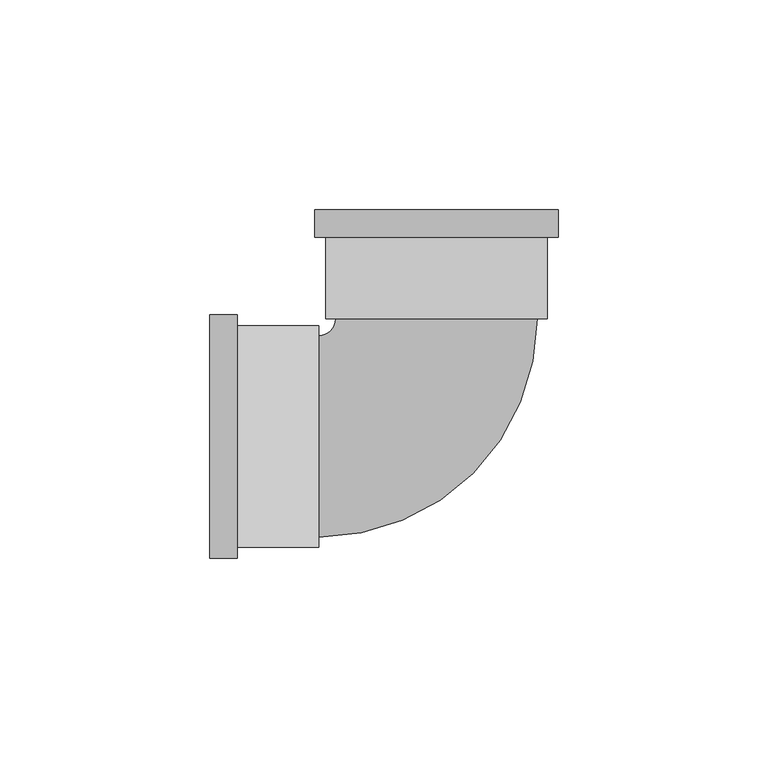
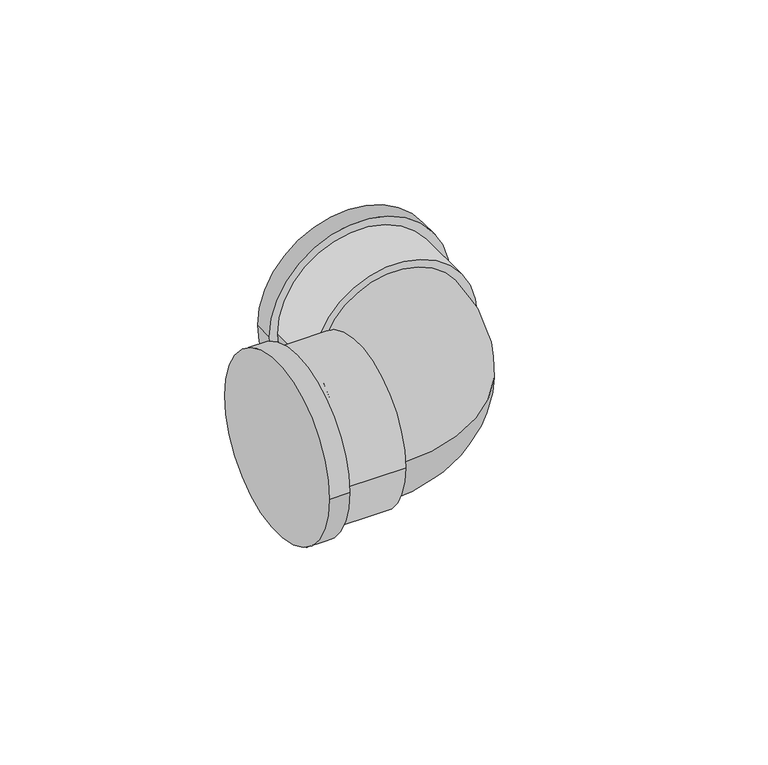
"""IFC4 building model written with IfcOpenShell, lengths in millimetres: pipe fitting geometry, Cotovelo - PVC - CW : Padrão."""

from ifc_helpers import new_model, si_unit, point, frame, origin, place, context, project, spatial, circle_curve, ellipse_curve, trimmed, source, transform, mapped, element, save
from ifc_brep_helpers import plane_surface, cylinder_surface, revolved_surface, advanced_brep


def pipe_fitting_c8e70db0(model_context):
    return source(origin(), model_context, "Body", "AdvancedBrep", [
        advanced_brep(
        [(-54.0, -29.04, 0.0), (-54.0, 29.04, 0.0), (-47.5, -29.04, 0.0), (-47.5, 29.04, 0.0), (-47.5, -26.4, 0.0), (-47.5, 26.4, 0.0), (-28.0, 26.4, 0.0), (-28.0, -26.4, 0.0), (-28.0, -24.0, 0.0), (-28.0, 24.0, 0.0), (-24.0, 28.0, 0.0), (24.0, 28.0, 0.0), (26.4, 28.0, 0.0), (-26.4, 28.0, 0.0), (-29.04, 54.0, 0.0), (29.04, 54.0, 0.0), (26.4, 47.5, 0.0), (-26.4, 47.5, 0.0), (-29.04, 47.5, 0.0), (29.04, 47.5, 0.0)],
        [
            (0, 1, circle_curve(frame((-54.0, 0.0, 0.0), z_axis=(-1.0, 0.0, 0.0), x_axis=(0.0, 1.0, 0.0)), 29.04)),
            (1, 0, circle_curve(frame((-54.0, 0.0, 0.0), z_axis=(-1.0, 0.0, 0.0), x_axis=(0.0, 1.0, 0.0)), 29.04)),
            (2, 3, circle_curve(frame((-47.5, 0.0, 0.0), z_axis=(1.0, 0.0, 0.0), x_axis=(0.0, 1.0, 0.0)), 29.04)),
            (3, 2, circle_curve(frame((-47.5, 0.0, 0.0), z_axis=(1.0, 0.0, 0.0), x_axis=(0.0, 1.0, 0.0)), 29.04)),
            (4, 5, circle_curve(frame((-47.5, 0.0, 0.0), z_axis=(-1.0, 0.0, 0.0), x_axis=(0.0, -1.0, 0.0)), 26.4)),
            (5, 4, circle_curve(frame((-47.5, 0.0, 0.0), z_axis=(-1.0, 0.0, 0.0), x_axis=(0.0, -1.0, 0.0)), 26.4)),
            (0, 2),
            (3, 1),
            (6, 7, circle_curve(frame((-28.0, 0.0, 0.0), z_axis=(1.0, 0.0, 0.0), x_axis=(0.0, -1.0, 0.0)), 26.4)),
            (7, 6, circle_curve(frame((-28.0, 0.0, 0.0), z_axis=(1.0, 0.0, 0.0), x_axis=(0.0, -1.0, 0.0)), 26.4)),
            (8, 9, circle_curve(frame((-28.0, 0.0, 0.0), z_axis=(-1.0, 0.0, 0.0), x_axis=(0.0, 1.0, 0.0)), 24.0)),
            (9, 8, circle_curve(frame((-28.0, 0.0, 0.0), z_axis=(-1.0, 0.0, 0.0), x_axis=(0.0, 1.0, 0.0)), 24.0)),
            (6, 5),
            (4, 7),
            (10, 9, circle_curve(frame((-28.0, 28.0, 0.0), z_axis=(0.0, 0.0, -1.0), x_axis=(0.0, -1.0, 0.0)), 4.0)),
            (8, 11, circle_curve(frame((-28.0, 28.0, 0.0), z_axis=(0.0, 0.0, 1.0), x_axis=(0.0, -1.0, 0.0)), 52.0)),
            (11, 10, circle_curve(frame((0.0, 28.0, 0.0), z_axis=(0.0, -1.0, 0.0), x_axis=(-1.0, 0.0, 0.0)), 24.0)),
            (10, 11, circle_curve(frame((0.0, 28.0, 0.0), z_axis=(0.0, -1.0, 0.0), x_axis=(-1.0, 0.0, 0.0)), 24.0)),
            (12, 13, circle_curve(frame((0.0, 28.0, 0.0), z_axis=(0.0, -1.0, 0.0), x_axis=(-1.0, 0.0, 0.0)), 26.4)),
            (13, 12, circle_curve(frame((0.0, 28.0, 0.0), z_axis=(0.0, -1.0, 0.0), x_axis=(-1.0, 0.0, 0.0)), 26.4)),
            (14, 15, circle_curve(frame((0.0, 54.0, 0.0), z_axis=(0.0, 1.0, 0.0), x_axis=(1.0, 0.0, 0.0)), 29.04)),
            (15, 14, circle_curve(frame((0.0, 54.0, 0.0), z_axis=(0.0, 1.0, 0.0), x_axis=(1.0, 0.0, 0.0)), 29.04)),
            (12, 16),
            (16, 17, circle_curve(frame((0.0, 47.5, 0.0), z_axis=(0.0, -1.0, 0.0), x_axis=(-1.0, 0.0, 0.0)), 26.4)),
            (17, 13),
            (17, 16, circle_curve(frame((0.0, 47.5, 0.0), z_axis=(0.0, -1.0, 0.0), x_axis=(-1.0, 0.0, 0.0)), 26.4)),
            (18, 19, circle_curve(frame((0.0, 47.5, 0.0), z_axis=(0.0, -1.0, 0.0), x_axis=(1.0, 0.0, 0.0)), 29.04)),
            (19, 18, circle_curve(frame((0.0, 47.5, 0.0), z_axis=(0.0, -1.0, 0.0), x_axis=(1.0, 0.0, 0.0)), 29.04)),
            (14, 18),
            (19, 15),
        ],
        [
            plane_surface(frame((-54.0, 0.0, 0.0), z_axis=(-1.0, 0.0, 0.0), x_axis=(0.0, 0.0, 1.0))),
            plane_surface(frame((-47.5, 0.0, 0.0), z_axis=(1.0, 0.0, 0.0), x_axis=(0.0, 0.0, 1.0))),
            cylinder_surface(frame((-54.0, 0.0, 0.0), z_axis=(-1.0, 0.0, 0.0), x_axis=(0.0, 1.0, 0.0)), 29.04),
            plane_surface(frame((-28.0, 0.0, 0.0), z_axis=(1.0, 0.0, 0.0), x_axis=(0.0, 0.0, 1.0))),
            cylinder_surface(frame((-28.0, 0.0, 0.0), z_axis=(1.0, 0.0, 0.0), x_axis=(0.0, -1.0, 0.0)), 26.4),
            revolved_surface(trimmed(ellipse_curve(frame((-28.0, 0.0, 0.0), z_axis=(-1.0, 0.0, 0.0), x_axis=(0.0, 1.0, 0.0)), 24.0, 24.0), [point((-28.0, -24.0, 0.0))], [point((-28.0, 24.0, 0.0))], True, "CARTESIAN"), (-28.0, 28.0, 0.0), (0.0, 0.0, 1.0)),
            revolved_surface(trimmed(ellipse_curve(frame((-28.0, 0.0, 0.0), z_axis=(-1.0, 0.0, 0.0), x_axis=(0.0, 1.0, 0.0)), 24.0, 24.0), [point((-28.0, 24.0, 0.0))], [point((-28.0, -24.0, 0.0))], True, "CARTESIAN"), (-28.0, 28.0, 0.0), (0.0, 0.0, 1.0)),
            plane_surface(frame((0.0, 28.0, 0.0), z_axis=(0.0, -1.0, 0.0), x_axis=(0.0, 0.0, 1.0))),
            plane_surface(frame((0.0, 54.0, 0.0), z_axis=(0.0, 1.0, 0.0), x_axis=(0.0, 0.0, 1.0))),
            cylinder_surface(frame((0.0, 28.0, 0.0), z_axis=(0.0, -1.0, 0.0), x_axis=(-1.0, 0.0, 0.0)), 26.4),
            plane_surface(frame((0.0, 47.5, 0.0), z_axis=(0.0, -1.0, 0.0), x_axis=(0.0, 0.0, 1.0))),
            cylinder_surface(frame((0.0, 54.0, 0.0), z_axis=(0.0, 1.0, 0.0), x_axis=(1.0, 0.0, 0.0)), 29.04),
        ],
        [
            (0, [[1, 2]]),
            (1, [[3, 4], [5, 6]]),
            (2, [[-1, 7, -4, 8]]),
            (2, [[-2, -8, -3, -7]]),
            (3, [[9, 10], [11, 12]]),
            (4, [[-9, 13, -5, 14]]),
            (4, [[-10, -14, -6, -13]]),
            (5, [[15, -11, 16, 17]]),
            (6, [[-15, 18, -16, -12]]),
            (7, [[19, 20], [-17, -18]]),
            (8, [[21, 22]]),
            (9, [[-19, 23, 24, 25]]),
            (9, [[-20, -25, 26, -23]]),
            (10, [[27, 28], [-24, -26]]),
            (11, [[-21, 29, -28, 30]]),
            (11, [[-22, -30, -27, -29]]),
        ],
    ),
    ])


if __name__ == "__main__":
    model = new_model("IFC4")
    model_context = context("Model", 3, world=origin())
    ifc_project = project(units=[si_unit("LENGTHUNIT", "METRE", prefix="MILLI")], contexts=[model_context])
    site = spatial("IfcSite", under=ifc_project)
    building = spatial("IfcBuilding", under=site)
    placement = place(None, origin())
    pipe_fitting_shape = pipe_fitting_c8e70db0(model_context)
    element("IfcPipeFitting", 1, ObjectType="Cotovelo - PVC - CW : Padrão", at=placement, inside=building, context=model_context, shape_type="MappedRepresentation", body=[
        mapped(pipe_fitting_shape, transform((0.0, 0.0, 0.0), x_axis=(1.0, 0.0, 0.0), y_axis=(0.0, 1.0, 0.0), z_axis=(0.0, 0.0, 1.0))),
    ])
    save(model, "model.ifc")
